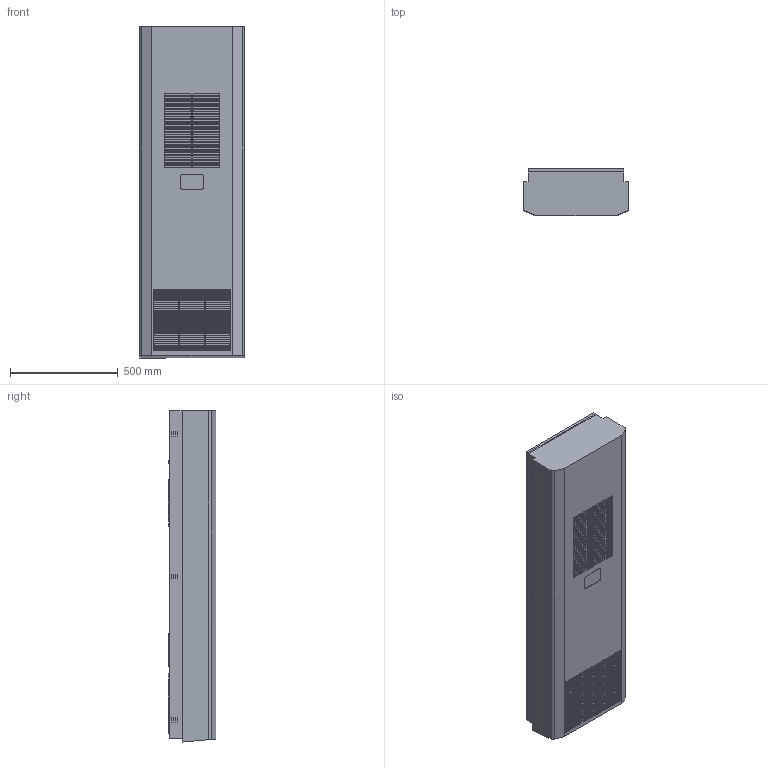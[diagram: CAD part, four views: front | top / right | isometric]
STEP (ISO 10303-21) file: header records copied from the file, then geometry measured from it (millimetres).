
FILE_DESCRIPTION (( 'STEP AP214' ), '1' );
FILE_NAME ('DTI 62_6301.STEP', '2026-04-29T14:22:46', ( '' ), ( '' ), 'SwSTEP 2.0', 'SolidWorks 2024', '' );
FILE_SCHEMA (( 'AUTOMOTIVE_DESIGN' ));
Length unit declared in the file: millimetre
Products named in the file (1): DTI 62_6301
Bounding box: 485 x 220.62 x 1537.1 mm (x, y, z)
Volume: 153683077.1 mm3; surface area: 2425988.8 mm2
Topology: 1 solids, 1 shells, 965 faces, 2320 edges, 1546 vertices
Faces by surface type: plane 607, cylinder 358
Entity records: 28173 total; most frequent: DIRECTION 4960, CARTESIAN_POINT 4844, ORIENTED_EDGE 4640, EDGE_CURVE 2320, AXIS2_PLACEMENT_3D 1678, LINE 1604, VECTOR 1604, VERTEX_POINT 1546
